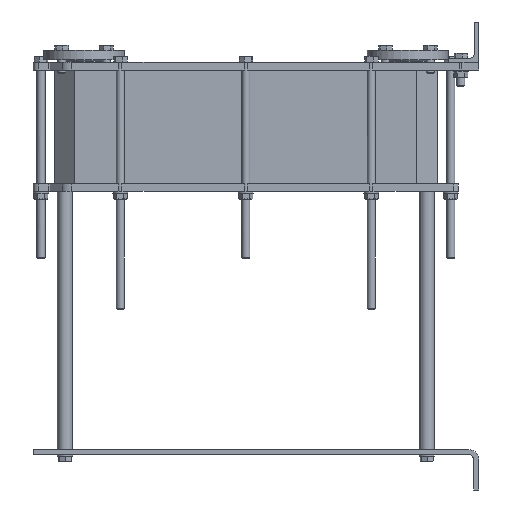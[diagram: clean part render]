
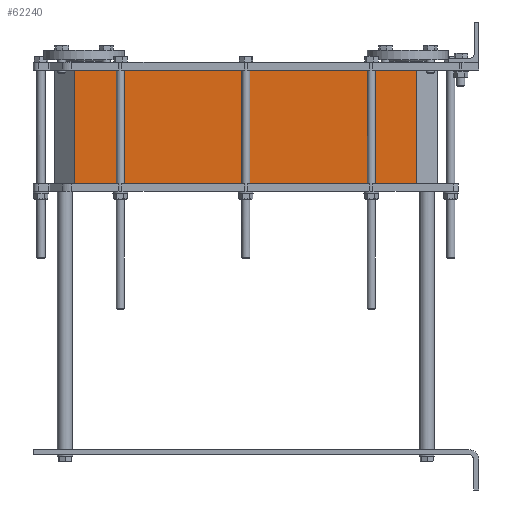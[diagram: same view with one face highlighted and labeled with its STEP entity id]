
A CAD part, left-side view. The second image highlights one B-rep face of the part: STEP entity #62240.
In plain terms, the highlighted planar face has unit normal (-1, 0, 0).
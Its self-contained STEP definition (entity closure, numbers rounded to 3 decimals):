
#427 = CARTESIAN_POINT ( 'NONE',  ( 22., 122., -95. ) ) ;
#942 = EDGE_CURVE ( 'NONE', #86084, #15736, #59420, .T. ) ;
#1281 = VERTEX_POINT ( 'NONE', #3782 ) ;
#3478 = CARTESIAN_POINT ( 'NONE',  ( 22., 798., -320. ) ) ;
#3782 = CARTESIAN_POINT ( 'NONE',  ( 22., 122., -95. ) ) ;
#8267 = EDGE_CURVE ( 'NONE', #1281, #47711, #32663, .T. ) ;
#13163 = VECTOR ( 'NONE', #48578, 1000. ) ;
#13294 = EDGE_CURVE ( 'NONE', #47711, #15736, #44212, .T. ) ;
#14692 = DIRECTION ( 'NONE',  ( 0., 1., 0. ) ) ;
#15736 = VERTEX_POINT ( 'NONE', #3478 ) ;
#17653 = DIRECTION ( 'NONE',  ( 0., 0., -1. ) ) ;
#21774 = CARTESIAN_POINT ( 'NONE',  ( 22., 798., -320. ) ) ;
#32359 = ORIENTED_EDGE ( 'NONE', *, *, #942, .T. ) ;
#32663 = LINE ( 'NONE', #33854, #13163 ) ;
#33854 = CARTESIAN_POINT ( 'NONE',  ( 22., 122., -95. ) ) ;
#33920 = FACE_OUTER_BOUND ( 'NONE', #66916, .T. ) ;
#42169 = VECTOR ( 'NONE', #17653, 1000. ) ;
#44212 = LINE ( 'NONE', #21774, #78512 ) ;
#45400 = LINE ( 'NONE', #66311, #70595 ) ;
#47711 = VERTEX_POINT ( 'NONE', #77931 ) ;
#48578 = DIRECTION ( 'NONE',  ( 0., 0., -1. ) ) ;
#50581 = DIRECTION ( 'NONE',  ( 0., 1., 0. ) ) ;
#58659 = ORIENTED_EDGE ( 'NONE', *, *, #8267, .F. ) ;
#58844 = CARTESIAN_POINT ( 'NONE',  ( 22., 798., -95. ) ) ;
#59420 = LINE ( 'NONE', #91136, #42169 ) ;
#62240 = ADVANCED_FACE ( 'NONE', ( #33920 ), #70809, .T. ) ;
#62294 = EDGE_CURVE ( 'NONE', #86084, #1281, #45400, .T. ) ;
#66311 = CARTESIAN_POINT ( 'NONE',  ( 22., 798., -95. ) ) ;
#66731 = ORIENTED_EDGE ( 'NONE', *, *, #13294, .F. ) ;
#66916 = EDGE_LOOP ( 'NONE', ( #87452, #32359, #66731, #58659 ) ) ;
#70595 = VECTOR ( 'NONE', #72715, 1000. ) ;
#70809 = PLANE ( 'NONE',  #74318 ) ;
#72407 = DIRECTION ( 'NONE',  ( -1., 0., 0. ) ) ;
#72715 = DIRECTION ( 'NONE',  ( 0., -1., 0. ) ) ;
#74318 = AXIS2_PLACEMENT_3D ( 'NONE', #427, #72407, #14692 ) ;
#77931 = CARTESIAN_POINT ( 'NONE',  ( 22., 122., -320. ) ) ;
#78512 = VECTOR ( 'NONE', #50581, 1000. ) ;
#86084 = VERTEX_POINT ( 'NONE', #58844 ) ;
#87452 = ORIENTED_EDGE ( 'NONE', *, *, #62294, .F. ) ;
#91136 = CARTESIAN_POINT ( 'NONE',  ( 22., 798., -95. ) ) ;
